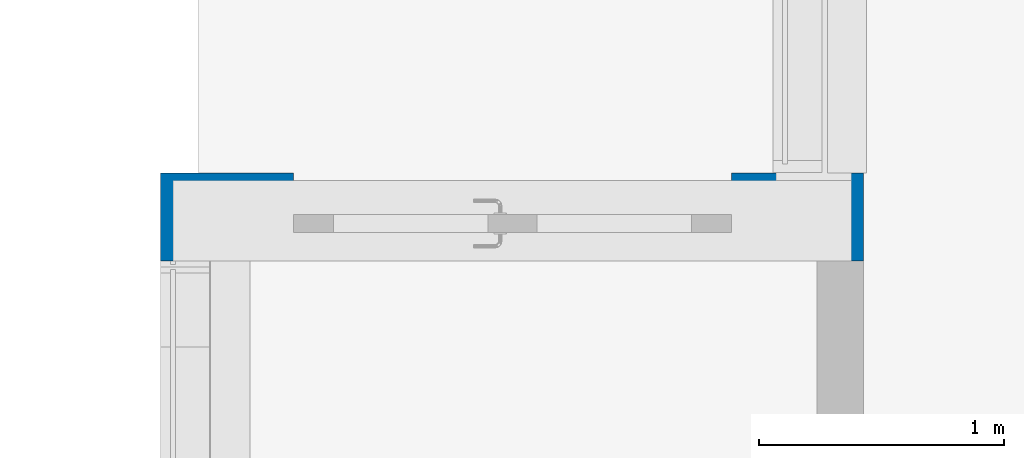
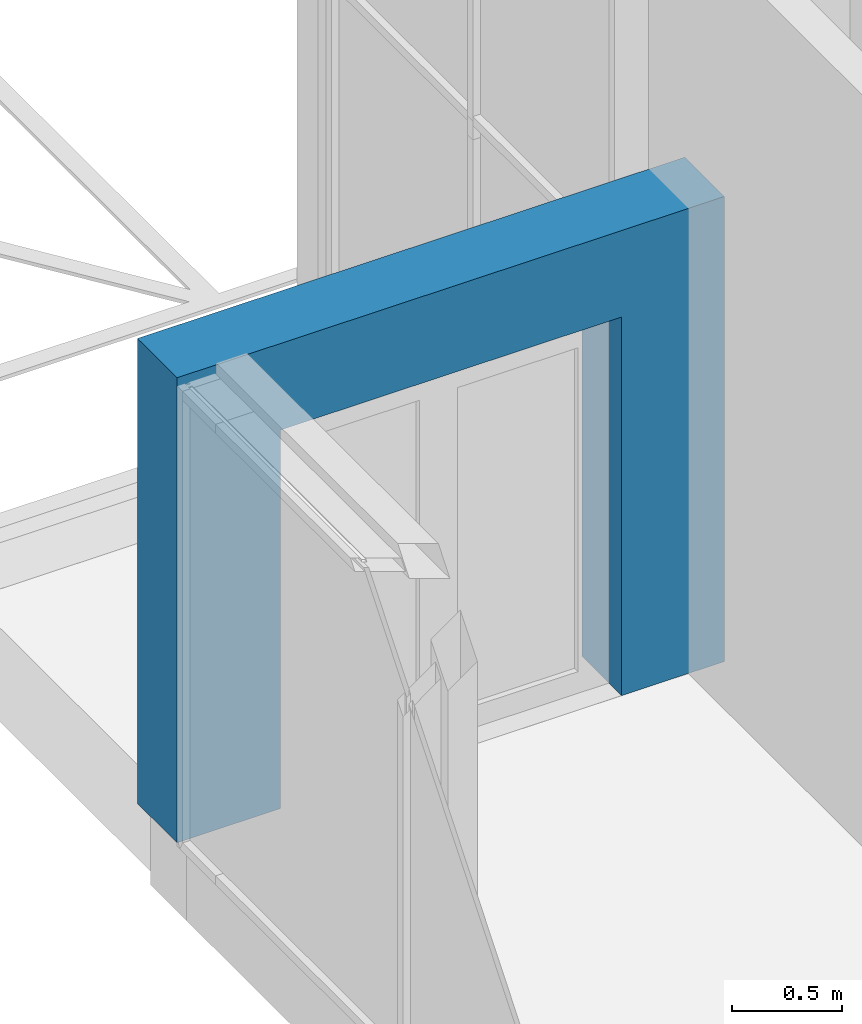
# One storey, part 133 of 301: 1 wall, 1 opening.
"""IFC2X3 building model written with IfcOpenShell, lengths in millimetres."""

import ifcopenshell
import ifcopenshell.guid

model = None  # the IFC model being written
_history = None  # IfcOwnerHistory: only IFC2X3 demands one
_inside = {}  # id of a spatial element -> (the spatial element, [elements in it])
_under = {}  # id of a project, library or spatial element -> (it, [spatial elements below it])
_declared = {}  # id of a project -> (the project, [libraries it declares])
_typed = {}  # id of a type object -> (the type object, [elements of that type])
_made_of = {}  # id of a material, layer set ... -> (it, [elements and type objects made of it])


def new_model(schema):
    """Start an empty IFC model of exactly this schema.

    Asked for "IFC4X3", IfcOpenShell would pick the latest addendum, in which some entities
    have other attributes; the version numbers below select the first issue.
    IFC2X3 requires an IfcOwnerHistory on every rooted entity: one is made here for all.
    """
    global model, _history
    if schema == "IFC4X3":
        model = ifcopenshell.file(schema_version=(4, 3, 0, 0))
    else:
        model = ifcopenshell.file(schema=schema)
    _inside.clear()
    _under.clear()
    _declared.clear()
    _typed.clear()
    _made_of.clear()
    _history = None
    if model.schema == "IFC2X3":
        org = make("IfcOrganization", Name="unknown")
        user = make(
            "IfcPersonAndOrganization",
            ThePerson=make("IfcPerson", FamilyName="unknown"),
            TheOrganization=org,
        )
        app = make(
            "IfcApplication",
            ApplicationDeveloper=org,
            Version="unknown",
            ApplicationFullName="unknown",
            ApplicationIdentifier="unknown",
        )
        _history = make(
            "IfcOwnerHistory",
            OwningUser=user,
            OwningApplication=app,
            ChangeAction="ADDED",
            CreationDate=0,
        )
    return model


def make(cls, **values):
    """One entity of the class cls with the attributes given. An attribute that is None is left unset."""
    return model.create_entity(
        cls, **{name: value for name, value in values.items() if value is not None}
    )


def entity(cls, *values):
    """Any entity or typed value of the class cls, its attributes in the order of the schema. None: left unset."""
    e = model.create_entity(cls)
    for i, value in enumerate(values):
        if value is not None:
            e[i] = value
    return e


def rooted(cls, **values):
    """An entity with a GlobalId (a new one), such as an element, a storey or a relation."""
    return make(cls, GlobalId=ifcopenshell.guid.new(), OwnerHistory=_history, **values)


def si_unit(unit_type, name, prefix=None):
    """IfcSIUnit, for example si_unit("LENGTHUNIT", "METRE", prefix="MILLI")."""
    return make("IfcSIUnit", UnitType=unit_type, Prefix=prefix, Name=name)


def converted_unit(unit_type, name, factor, base, dimensions=None, offset=None):
    """IfcConversionBasedUnit, such as the inch: factor (a typed value) times the base unit."""
    return make(
        "IfcConversionBasedUnit"
        if offset is None
        else "IfcConversionBasedUnitWithOffset",
        ConversionOffset=offset,
        Dimensions=None
        if dimensions is None
        else entity("IfcDimensionalExponents", *dimensions),
        UnitType=unit_type,
        Name=name,
        ConversionFactor=make(
            "IfcMeasureWithUnit", ValueComponent=factor, UnitComponent=base
        ),
    )


def derived_unit(unit_type, elements):
    """IfcDerivedUnit: a product of units, each with its exponent."""
    return make(
        "IfcDerivedUnit",
        Elements=[
            make("IfcDerivedUnitElement", Unit=unit, Exponent=power)
            for unit, power in elements
        ],
        UnitType=unit_type,
    )


def money_unit(currency):
    """IfcMonetaryUnit."""
    return make("IfcMonetaryUnit", Currency=currency)


def assignment(units):
    """IfcUnitAssignment: the units of a project."""
    return None if units is None else make("IfcUnitAssignment", Units=units)


def point(xyz):
    """IfcCartesianPoint."""
    return None if xyz is None else make("IfcCartesianPoint", Coordinates=xyz)


def direction(xyz):
    """IfcDirection."""
    return None if xyz is None else make("IfcDirection", DirectionRatios=xyz)


def frame(location, z_axis=None, x_axis=None):
    """IfcAxis2Placement3D, a coordinate frame: its origin and axes. An axis left out is left unset."""
    return make(
        "IfcAxis2Placement3D",
        Location=point(location),
        Axis=direction(z_axis),
        RefDirection=direction(x_axis),
    )


def origin_with_axes():
    """The frame at (0, 0, 0) with the z axis (0, 0, 1) and the x axis (1, 0, 0) written out."""
    return frame((0.0, 0.0, 0.0), z_axis=(0.0, 0.0, 1.0), x_axis=(1.0, 0.0, 0.0))


def place(relative_to, where):
    """IfcLocalPlacement: puts the frame where relative to a parent placement (None: the world)."""
    return make(
        "IfcLocalPlacement", PlacementRelTo=relative_to, RelativePlacement=where
    )


def context(
    kind, dimensions, precision=None, world=None, true_north=None, identifier=None
):
    """IfcGeometricRepresentationContext, for example the 3D "Model" context."""
    return make(
        "IfcGeometricRepresentationContext",
        ContextIdentifier=identifier,
        ContextType=kind,
        CoordinateSpaceDimension=dimensions,
        Precision=precision,
        WorldCoordinateSystem=world,
        TrueNorth=true_north,
    )


def subcontext(parent, identifier, kind, view, scale=None):
    """IfcGeometricRepresentationSubContext, for example "Body" below "Model"."""
    return make(
        "IfcGeometricRepresentationSubContext",
        ContextIdentifier=identifier,
        ContextType=kind,
        ParentContext=parent,
        TargetScale=scale,
        TargetView=view,
    )


def project(units=None, contexts=None):
    """IfcProject with its units and contexts."""
    return rooted(
        "IfcProject",
        Name="project",
        RepresentationContexts=contexts,
        UnitsInContext=assignment(units),
    )


def spatial(cls, under=None, at=None, **own):
    """A site, building, storey or space (cls), placed at a placement, below another one or the project."""
    s = rooted(cls, ObjectPlacement=at, **own)
    if under is not None:
        _under.setdefault(under.id(), (under, []))[1].append(s)
    return s


def faces_of(points, faces, orient=None, outer=None):
    """IfcFace entities. A face is a list of loops; a loop is a list of indices into points, from 0.

    orient and outer hold one flag for each loop. By default every Orientation is true, the
    first loop of a face is its IfcFaceOuterBound and the others are IfcFaceBound.
    """
    made = []
    for i, loops in enumerate(faces):
        bounds = []
        for j, loop in enumerate(loops):
            is_outer = j == 0 if outer is None else outer[i][j]
            bounds.append(
                make(
                    "IfcFaceOuterBound" if is_outer else "IfcFaceBound",
                    Bound=make("IfcPolyLoop", Polygon=[points[k] for k in loop]),
                    Orientation=True if orient is None else orient[i][j],
                )
            )
        made.append(make("IfcFace", Bounds=bounds))
    return made


def faceted_brep(points, faces, orient=None, outer=None, voids=None):
    """IfcFacetedBrep: a solid bounded by flat faces; with voids (closed shells), ...WithVoids."""
    shared = [point(p) for p in points]
    hull = make("IfcClosedShell", CfsFaces=faces_of(shared, faces, orient, outer))
    if voids is None:
        return make("IfcFacetedBrep", Outer=hull)
    return make(
        "IfcFacetedBrepWithVoids",
        Outer=hull,
        Voids=[
            make(cls, CfsFaces=faces_of(shared, fs, o, b)) for cls, fs, o, b in voids
        ],
    )


def shape(context_of_items, identifier, shape_type, items):
    """IfcShapeRepresentation: the items that make up one representation, for example the "Body"."""
    return make(
        "IfcShapeRepresentation",
        ContextOfItems=context_of_items,
        RepresentationIdentifier=identifier,
        RepresentationType=shape_type,
        Items=items,
    )


def material(Name=None, Category=None):
    """IfcMaterial."""
    return make("IfcMaterial", Name=Name, Category=Category)


def made_of(thing, what):
    """Note that an element or type object is made of a material, layer set ...; save() writes the relation."""
    if what is not None:
        _made_of.setdefault(what.id(), (what, []))[1].append(thing)
    return thing


def type_object(cls, material=None, **own):
    """A type object (cls), such as IfcWallType, which elements share."""
    return made_of(rooted(cls, **own), material)


def element(
    cls,
    number,
    at=None,
    inside=None,
    cuts=None,
    type_object=None,
    material=None,
    context=None,
    identifier="Body",
    shape_type=None,
    held_by="IfcProductDefinitionShape",
    body=None,
    shapes=None,
    **own,
):
    """One element of the class cls, such as IfcWall. Its Tag is "e" and its number.

    at: its placement. inside: the storey or other place that contains it. cuts: it is an
    opening in that element (IfcRelVoidsElement). A single representation is given by context,
    identifier, shape_type and body (its items); several are given by shapes. held_by: the class
    of the entity that holds the representations. save() writes the other relations.
    """
    e = rooted(cls, Tag="e%d" % number, ObjectPlacement=at, **own)
    if body is not None:
        shapes = [shape(context, identifier, shape_type, body)]
    if shapes is not None:
        e.Representation = make(held_by, Representations=shapes)
    if inside is not None:
        _inside.setdefault(inside.id(), (inside, []))[1].append(e)
    if cuts is not None:
        rooted(
            "IfcRelVoidsElement", RelatingBuildingElement=cuts, RelatedOpeningElement=e
        )
    if type_object is not None:
        _typed.setdefault(type_object.id(), (type_object, []))[1].append(e)
    return made_of(e, material)


def aggregate(whole, parts):
    """IfcRelAggregates: a whole, such as a stair, and the parts it consists of."""
    return rooted("IfcRelAggregates", RelatingObject=whole, RelatedObjects=parts)


def save(model, path):
    """Write the relations noted so far, then the file.

    IfcRelAggregates (storeys below a building ...), IfcRelContainedInSpatialStructure (elements
    in a storey), IfcRelDefinesByType, IfcRelAssociatesMaterial and IfcRelDeclares: one each for
    every whole, place, type object, material and project.
    """
    for whole, parts in _under.values():
        aggregate(whole, parts)
    for where, things in _inside.values():
        rooted(
            "IfcRelContainedInSpatialStructure",
            RelatedElements=things,
            RelatingStructure=where,
        )
    for kind, things in _typed.values():
        rooted("IfcRelDefinesByType", RelatedObjects=things, RelatingType=kind)
    for what, things in _made_of.values():
        rooted("IfcRelAssociatesMaterial", RelatedObjects=things, RelatingMaterial=what)
    for by, libraries in _declared.values():
        rooted("IfcRelDeclares", RelatingContext=by, RelatedDefinitions=libraries)
    model.write(path)


model = new_model("IFC2X3")

# Units and contexts
model_context = context("Model", 3, precision=0.01, world=origin_with_axes(), true_north=direction((0.0, 1.0)))
body_context = subcontext(model_context, "Body", "Model", "MODEL_VIEW")
ifc_project = project(units=[si_unit("LENGTHUNIT", "METRE", prefix="MILLI"), si_unit("AREAUNIT", "SQUARE_METRE"), si_unit("VOLUMEUNIT", "CUBIC_METRE"), converted_unit("PLANEANGLEUNIT", "DEGREE", entity("IfcPlaneAngleMeasure", 0.0174532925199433), si_unit("PLANEANGLEUNIT", "RADIAN"), dimensions=[0, 0, 0, 0, 0, 0, 0]), money_unit("EUR"), converted_unit("TIMEUNIT", "Year", entity("IfcTimeMeasure", 31557600.0), si_unit("TIMEUNIT", "SECOND"), dimensions=[0, 0, 1, 0, 0, 0, 0]), si_unit("MASSUNIT", "GRAM", prefix="KILO"), si_unit("THERMODYNAMICTEMPERATUREUNIT", "DEGREE_CELSIUS"), si_unit("LUMINOUSINTENSITYUNIT", "LUMEN"), si_unit("ENERGYUNIT", "JOULE", prefix="MEGA"), derived_unit("THERMALCONDUCTANCEUNIT", [(si_unit("POWERUNIT", "WATT"), 1), (si_unit("LENGTHUNIT", "METRE"), -1), (si_unit("THERMODYNAMICTEMPERATUREUNIT", "KELVIN"), -1)]), derived_unit("SPECIFICHEATCAPACITYUNIT", [(si_unit("ENERGYUNIT", "JOULE"), 1), (si_unit("MASSUNIT", "GRAM", prefix="KILO"), -1), (si_unit("THERMODYNAMICTEMPERATUREUNIT", "KELVIN"), -1)]), derived_unit("MASSDENSITYUNIT", [(si_unit("MASSUNIT", "GRAM", prefix="KILO"), 1), (si_unit("VOLUMEUNIT", "CUBIC_METRE"), -1)])], contexts=[model_context])

# Site, building, storey
site_placement = place(None, frame((0.0, 0.0, 8650.0), z_axis=(0.0, 0.0, 1.0), x_axis=(1.0, 0.0, 0.0)))
site = spatial("IfcSite", under=ifc_project, at=site_placement, Name="43301:001:0844", CompositionType="ELEMENT")
building_placement = place(site_placement, origin_with_axes())
building = spatial("IfcBuilding", under=site, at=building_placement, Name="Kuressaare Ametikooli tuulikute mehaanikute õppekorpus", CompositionType="ELEMENT")
storey_placement = place(building_placement, origin_with_axes())
storey = spatial("IfcBuildingStorey", under=building, at=storey_placement, Name="1.korrus", CompositionType="ELEMENT", Elevation=0.0)

# Wall, opening
ifc_material = material(Name="GENEERILINE - KONSTRUKTRIOON")
wall_type = type_object("IfcWallType", Name="GENEERILINE - KONSTRUKTRIOON 360", PredefinedType="NOTDEFINED")
wall_placement = place(storey_placement, frame((121167.1894836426, 40678.78491300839, 0.0), z_axis=(0.0, 0.0, 1.0), x_axis=(-1.0, 0.0, 0.0)))
wall = element("IfcWall", 1, at=wall_placement, inside=storey, type_object=wall_type, material=ifc_material, Name="VS-XX", context=body_context, shape_type="Brep", body=[
    faceted_brep([(539.6821836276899, 170.0000000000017, 0.0), (539.6821836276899, 170.0000000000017, 2100.0), (539.6821836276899, 0.0, 2100.0), (539.6821836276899, 0.0, 0.0), (539.6821836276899, 359.9999999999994, 0.0), (539.6821836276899, 359.9999999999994, 2100.0), (2329.682183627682, 170.0000000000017, 2100.0), (2329.682183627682, 0.0, 2100.0), (0.0, 0.0, 0.0), (2329.682183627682, 0.0, 0.0), (2872.640444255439, 0.0, 0.0), (2872.640444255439, 0.0, 2580.0), (0.0, 0.0, 2580.0), (0.0, 0.0, 0.0688909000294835), (0.0, 359.9999999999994, 0.0), (0.0, 359.9999999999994, 0.0688909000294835), (0.0, 359.9999999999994, 2580.0), (2872.640444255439, 359.9999999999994, 2580.0), (2872.640444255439, 359.9999999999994, 0.0), (2329.682183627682, 359.9999999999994, 0.0), (2329.682183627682, 359.9999999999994, 2100.0), (2329.682183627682, 170.0000000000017, 0.0)], [[[0, 1, 2, 3]], [[1, 0, 4, 5]], [[1, 6, 7, 2]], [[8, 3, 2, 7, 9, 10, 11, 12, 13]], [[4, 0, 3, 8, 14]], [[5, 4, 14, 15, 16, 17, 18, 19, 20]], [[6, 1, 5, 20]], [[6, 21, 9, 7]], [[21, 19, 18, 10, 9]], [[18, 17, 11, 10]], [[12, 11, 17, 16]], [[8, 13, 12, 16, 15, 14]], [[21, 6, 20, 19]]]),
])
opening_placement = place(wall_placement, frame((1434.682183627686, 0.0, 0.0), z_axis=(0.0, 0.0, 1.0), x_axis=(1.0, 0.0, 0.0)))
element("IfcOpeningElement", 2, at=opening_placement, cuts=wall, context=body_context, shape_type="Brep", body=[
    faceted_brep([(894.999999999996, 170.0000000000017, 2100.0), (-894.999999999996, 170.0000000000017, 2100.0), (-894.999999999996, -0.9999999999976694, 2100.0), (894.999999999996, -0.9999999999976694, 2100.0), (894.999999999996, 360.9999999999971, 2100.0), (-894.999999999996, 360.9999999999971, 2100.0), (-894.999999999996, 170.0000000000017, 0.0), (-894.999999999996, -0.9999999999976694, 0.0), (894.999999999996, -0.9999999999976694, 0.0), (894.999999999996, 170.0000000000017, 0.0), (894.999999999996, 360.9999999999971, 0.0), (-894.999999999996, 360.9999999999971, 0.0)], [[[0, 1, 2, 3]], [[1, 0, 4, 5]], [[1, 6, 7, 2]], [[2, 7, 8, 3]], [[9, 0, 3, 8]], [[0, 9, 10, 4]], [[4, 10, 11, 5]], [[6, 1, 5, 11]], [[6, 9, 8, 7]], [[9, 6, 11, 10]]]),
])

save(model, "model.ifc")
